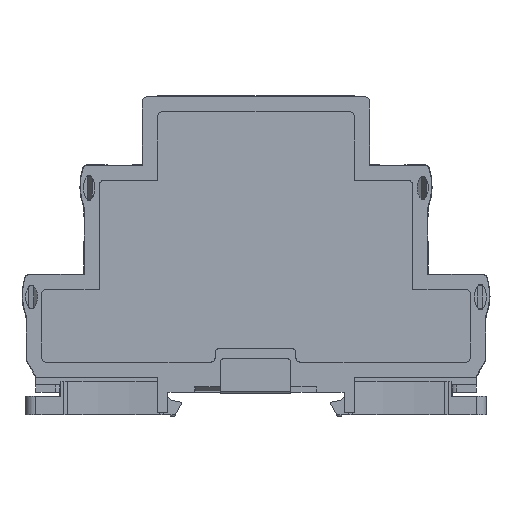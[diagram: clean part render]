
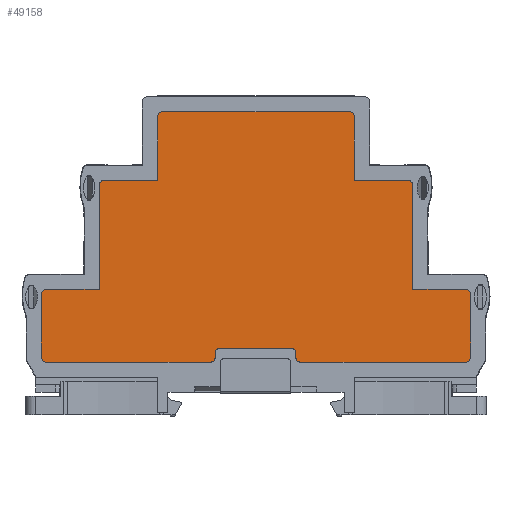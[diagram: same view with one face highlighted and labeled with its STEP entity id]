
A CAD part, left-side view. The second image highlights one B-rep face of the part: STEP entity #49158.
In plain terms, the highlighted planar face has unit normal (-1, 0, 0).
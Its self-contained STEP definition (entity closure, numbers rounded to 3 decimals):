
#437=CIRCLE('',#51834,1.);
#438=CIRCLE('',#51837,1.);
#440=CIRCLE('',#51840,1.);
#442=CIRCLE('',#51844,1.);
#443=CIRCLE('',#51845,1.);
#444=CIRCLE('',#51846,1.);
#445=CIRCLE('',#51847,1.);
#446=CIRCLE('',#51848,1.);
#447=CIRCLE('',#51849,1.);
#448=CIRCLE('',#51850,1.);
#449=CIRCLE('',#51851,1.);
#450=CIRCLE('',#51852,1.);
#1712=FACE_OUTER_BOUND('',#4305,.T.);
#4305=EDGE_LOOP('',(#31586,#31587,#31588,#31589,#31590,#31591,#31592,#31593,
#31594,#31595,#31596,#31597,#31598,#31599,#31600,#31601,#31602,#31603,#31604,
#31605,#31606,#31607,#31608,#31609,#31610,#31611,#31612,#31613));
#7128=LINE('',#69370,#13315);
#7134=LINE('',#69391,#13321);
#7137=LINE('',#69397,#13324);
#7138=LINE('',#69401,#13325);
#7139=LINE('',#69405,#13326);
#7140=LINE('',#69409,#13327);
#7141=LINE('',#69413,#13328);
#7142=LINE('',#69417,#13329);
#7143=LINE('',#69421,#13330);
#7144=LINE('',#69423,#13331);
#7145=LINE('',#69427,#13332);
#7146=LINE('',#69429,#13333);
#7147=LINE('',#69433,#13334);
#7148=LINE('',#69436,#13335);
#7149=LINE('',#69438,#13336);
#7150=LINE('',#69439,#13337);
#13315=VECTOR('',#55740,10.);
#13321=VECTOR('',#55760,10.);
#13324=VECTOR('',#55765,10.);
#13325=VECTOR('',#55768,10.);
#13326=VECTOR('',#55771,10.);
#13327=VECTOR('',#55774,10.);
#13328=VECTOR('',#55777,10.);
#13329=VECTOR('',#55780,10.);
#13330=VECTOR('',#55783,10.);
#13331=VECTOR('',#55784,10.);
#13332=VECTOR('',#55787,10.);
#13333=VECTOR('',#55788,10.);
#13334=VECTOR('',#55791,10.);
#13335=VECTOR('',#55794,10.);
#13336=VECTOR('',#55795,10.);
#13337=VECTOR('',#55796,10.);
#19525=VERTEX_POINT('',#69363);
#19526=VERTEX_POINT('',#69365);
#19527=VERTEX_POINT('',#69369);
#19529=VERTEX_POINT('',#69375);
#19531=VERTEX_POINT('',#69381);
#19532=VERTEX_POINT('',#69382);
#19535=VERTEX_POINT('',#69390);
#19537=VERTEX_POINT('',#69396);
#19538=VERTEX_POINT('',#69398);
#19539=VERTEX_POINT('',#69400);
#19540=VERTEX_POINT('',#69402);
#19541=VERTEX_POINT('',#69404);
#19542=VERTEX_POINT('',#69406);
#19543=VERTEX_POINT('',#69408);
#19544=VERTEX_POINT('',#69410);
#19545=VERTEX_POINT('',#69412);
#19546=VERTEX_POINT('',#69414);
#19547=VERTEX_POINT('',#69416);
#19548=VERTEX_POINT('',#69418);
#19549=VERTEX_POINT('',#69420);
#19550=VERTEX_POINT('',#69422);
#19551=VERTEX_POINT('',#69424);
#19552=VERTEX_POINT('',#69426);
#19553=VERTEX_POINT('',#69428);
#19554=VERTEX_POINT('',#69430);
#19555=VERTEX_POINT('',#69432);
#19556=VERTEX_POINT('',#69434);
#19557=VERTEX_POINT('',#69437);
#24222=EDGE_CURVE('',#19525,#19526,#437,.T.);
#24224=EDGE_CURVE('',#19527,#19526,#7128,.T.);
#24227=EDGE_CURVE('',#19527,#19529,#438,.T.);
#24230=EDGE_CURVE('',#19531,#19532,#440,.T.);
#24234=EDGE_CURVE('',#19535,#19532,#7134,.T.);
#24237=EDGE_CURVE('',#19525,#19537,#7137,.T.);
#24238=EDGE_CURVE('',#19538,#19537,#442,.T.);
#24239=EDGE_CURVE('',#19538,#19539,#7138,.T.);
#24240=EDGE_CURVE('',#19540,#19539,#443,.T.);
#24241=EDGE_CURVE('',#19540,#19541,#7139,.T.);
#24242=EDGE_CURVE('',#19542,#19541,#444,.T.);
#24243=EDGE_CURVE('',#19542,#19543,#7140,.T.);
#24244=EDGE_CURVE('',#19544,#19543,#445,.T.);
#24245=EDGE_CURVE('',#19544,#19545,#7141,.T.);
#24246=EDGE_CURVE('',#19546,#19545,#446,.T.);
#24247=EDGE_CURVE('',#19546,#19547,#7142,.T.);
#24248=EDGE_CURVE('',#19548,#19547,#447,.T.);
#24249=EDGE_CURVE('',#19548,#19549,#7143,.T.);
#24250=EDGE_CURVE('',#19549,#19550,#7144,.T.);
#24251=EDGE_CURVE('',#19551,#19550,#448,.T.);
#24252=EDGE_CURVE('',#19551,#19552,#7145,.T.);
#24253=EDGE_CURVE('',#19552,#19553,#7146,.T.);
#24254=EDGE_CURVE('',#19554,#19553,#449,.T.);
#24255=EDGE_CURVE('',#19554,#19555,#7147,.T.);
#24256=EDGE_CURVE('',#19556,#19555,#450,.T.);
#24257=EDGE_CURVE('',#19556,#19535,#7148,.T.);
#24258=EDGE_CURVE('',#19531,#19557,#7149,.T.);
#24259=EDGE_CURVE('',#19557,#19529,#7150,.T.);
#31586=ORIENTED_EDGE('',*,*,#24222,.F.);
#31587=ORIENTED_EDGE('',*,*,#24237,.T.);
#31588=ORIENTED_EDGE('',*,*,#24238,.F.);
#31589=ORIENTED_EDGE('',*,*,#24239,.T.);
#31590=ORIENTED_EDGE('',*,*,#24240,.F.);
#31591=ORIENTED_EDGE('',*,*,#24241,.T.);
#31592=ORIENTED_EDGE('',*,*,#24242,.F.);
#31593=ORIENTED_EDGE('',*,*,#24243,.T.);
#31594=ORIENTED_EDGE('',*,*,#24244,.F.);
#31595=ORIENTED_EDGE('',*,*,#24245,.T.);
#31596=ORIENTED_EDGE('',*,*,#24246,.F.);
#31597=ORIENTED_EDGE('',*,*,#24247,.T.);
#31598=ORIENTED_EDGE('',*,*,#24248,.F.);
#31599=ORIENTED_EDGE('',*,*,#24249,.T.);
#31600=ORIENTED_EDGE('',*,*,#24250,.T.);
#31601=ORIENTED_EDGE('',*,*,#24251,.F.);
#31602=ORIENTED_EDGE('',*,*,#24252,.T.);
#31603=ORIENTED_EDGE('',*,*,#24253,.T.);
#31604=ORIENTED_EDGE('',*,*,#24254,.F.);
#31605=ORIENTED_EDGE('',*,*,#24255,.T.);
#31606=ORIENTED_EDGE('',*,*,#24256,.F.);
#31607=ORIENTED_EDGE('',*,*,#24257,.T.);
#31608=ORIENTED_EDGE('',*,*,#24234,.T.);
#31609=ORIENTED_EDGE('',*,*,#24230,.F.);
#31610=ORIENTED_EDGE('',*,*,#24258,.T.);
#31611=ORIENTED_EDGE('',*,*,#24259,.T.);
#31612=ORIENTED_EDGE('',*,*,#24227,.F.);
#31613=ORIENTED_EDGE('',*,*,#24224,.T.);
#45781=PLANE('',#51843);
#49158=ADVANCED_FACE('',(#1712),#45781,.F.);
#51834=AXIS2_PLACEMENT_3D('',#69366,#55735,#55736);
#51837=AXIS2_PLACEMENT_3D('',#69376,#55745,#55746);
#51840=AXIS2_PLACEMENT_3D('',#69383,#55752,#55753);
#51843=AXIS2_PLACEMENT_3D('',#69395,#55763,#55764);
#51844=AXIS2_PLACEMENT_3D('',#69399,#55766,#55767);
#51845=AXIS2_PLACEMENT_3D('',#69403,#55769,#55770);
#51846=AXIS2_PLACEMENT_3D('',#69407,#55772,#55773);
#51847=AXIS2_PLACEMENT_3D('',#69411,#55775,#55776);
#51848=AXIS2_PLACEMENT_3D('',#69415,#55778,#55779);
#51849=AXIS2_PLACEMENT_3D('',#69419,#55781,#55782);
#51850=AXIS2_PLACEMENT_3D('',#69425,#55785,#55786);
#51851=AXIS2_PLACEMENT_3D('',#69431,#55789,#55790);
#51852=AXIS2_PLACEMENT_3D('',#69435,#55792,#55793);
#55735=DIRECTION('center_axis',(1.,0.,0.));
#55736=DIRECTION('ref_axis',(0.,0.707,-0.707));
#55740=DIRECTION('',(0.,0.,-1.));
#55745=DIRECTION('center_axis',(1.,0.,0.));
#55746=DIRECTION('ref_axis',(0.,0.707,0.707));
#55752=DIRECTION('center_axis',(1.,0.,0.));
#55753=DIRECTION('ref_axis',(0.,0.707,0.707));
#55760=DIRECTION('',(0.,1.,0.));
#55763=DIRECTION('center_axis',(1.,0.,0.));
#55764=DIRECTION('ref_axis',(0.,1.,0.));
#55765=DIRECTION('',(0.,-1.,0.));
#55766=DIRECTION('center_axis',(1.,0.,0.));
#55767=DIRECTION('ref_axis',(0.,-0.707,-0.707));
#55768=DIRECTION('',(0.,0.,1.));
#55769=DIRECTION('center_axis',(-1.,0.,0.));
#55770=DIRECTION('ref_axis',(0.,0.707,0.707));
#55771=DIRECTION('',(0.,-1.,0.));
#55772=DIRECTION('center_axis',(-1.,0.,0.));
#55773=DIRECTION('ref_axis',(0.,-0.707,0.707));
#55774=DIRECTION('',(0.,0.,-1.));
#55775=DIRECTION('center_axis',(1.,0.,0.));
#55776=DIRECTION('ref_axis',(0.,0.707,-0.707));
#55777=DIRECTION('',(0.,-1.,0.));
#55778=DIRECTION('center_axis',(1.,0.,0.));
#55779=DIRECTION('ref_axis',(0.,-0.707,-0.707));
#55780=DIRECTION('',(0.,0.,1.));
#55781=DIRECTION('center_axis',(1.,0.,0.));
#55782=DIRECTION('ref_axis',(0.,-0.707,0.707));
#55783=DIRECTION('',(0.,1.,0.));
#55784=DIRECTION('',(0.,0.,1.));
#55785=DIRECTION('center_axis',(1.,0.,0.));
#55786=DIRECTION('ref_axis',(0.,-0.707,0.707));
#55787=DIRECTION('',(0.,1.,0.));
#55788=DIRECTION('',(0.,0.,1.));
#55789=DIRECTION('center_axis',(1.,0.,0.));
#55790=DIRECTION('ref_axis',(0.,-0.707,0.707));
#55791=DIRECTION('',(0.,1.,0.));
#55792=DIRECTION('center_axis',(1.,0.,0.));
#55793=DIRECTION('ref_axis',(0.,0.707,0.707));
#55794=DIRECTION('',(0.,0.,-1.));
#55795=DIRECTION('',(0.,0.,-1.));
#55796=DIRECTION('',(0.,1.,0.));
#69363=CARTESIAN_POINT('',(-17.95,41.649,6.));
#69365=CARTESIAN_POINT('',(-17.95,42.649,7.));
#69366=CARTESIAN_POINT('Origin',(-17.95,41.649,7.));
#69369=CARTESIAN_POINT('',(-17.95,42.649,19.449));
#69370=CARTESIAN_POINT('',(-17.95,42.649,-37.134));
#69375=CARTESIAN_POINT('',(-17.95,41.649,20.449));
#69376=CARTESIAN_POINT('Origin',(-17.95,41.649,19.449));
#69381=CARTESIAN_POINT('',(-17.95,31.149,41.149));
#69382=CARTESIAN_POINT('',(-17.95,30.149,42.149));
#69383=CARTESIAN_POINT('Origin',(-17.95,30.149,41.149));
#69390=CARTESIAN_POINT('',(-17.95,19.549,42.149));
#69391=CARTESIAN_POINT('',(-17.95,-20.034,42.149));
#69395=CARTESIAN_POINT('Origin',(-17.95,-8.919,-94.717));
#69396=CARTESIAN_POINT('',(-17.95,9.1,6.));
#69397=CARTESIAN_POINT('',(-17.95,16.865,6.));
#69398=CARTESIAN_POINT('',(-17.95,8.1,7.));
#69399=CARTESIAN_POINT('Origin',(-17.95,9.1,7.));
#69400=CARTESIAN_POINT('',(-17.95,8.1,7.8));
#69401=CARTESIAN_POINT('',(-17.95,8.1,-44.858));
#69402=CARTESIAN_POINT('',(-17.95,7.1,8.8));
#69403=CARTESIAN_POINT('Origin',(-17.95,7.1,7.8));
#69404=CARTESIAN_POINT('',(-17.95,-6.9,8.8));
#69405=CARTESIAN_POINT('',(-17.95,-0.409,8.8));
#69406=CARTESIAN_POINT('',(-17.95,-7.9,7.8));
#69407=CARTESIAN_POINT('Origin',(-17.95,-6.9,7.8));
#69408=CARTESIAN_POINT('',(-17.95,-7.9,7.));
#69409=CARTESIAN_POINT('',(-17.95,-7.9,-42.958));
#69410=CARTESIAN_POINT('',(-17.95,-8.9,6.));
#69411=CARTESIAN_POINT('Origin',(-17.95,-8.9,7.));
#69412=CARTESIAN_POINT('',(-17.95,-41.649,6.));
#69413=CARTESIAN_POINT('',(-17.95,16.865,6.));
#69414=CARTESIAN_POINT('',(-17.95,-42.649,7.));
#69415=CARTESIAN_POINT('Origin',(-17.95,-41.649,7.));
#69416=CARTESIAN_POINT('',(-17.95,-42.649,19.449));
#69417=CARTESIAN_POINT('',(-17.95,-42.649,-44.358));
#69418=CARTESIAN_POINT('',(-17.95,-41.649,20.449));
#69419=CARTESIAN_POINT('Origin',(-17.95,-41.649,19.449));
#69420=CARTESIAN_POINT('',(-17.95,-31.149,20.449));
#69421=CARTESIAN_POINT('',(-17.95,-25.784,20.449));
#69422=CARTESIAN_POINT('',(-17.95,-31.149,41.149));
#69423=CARTESIAN_POINT('',(-17.95,-31.149,-37.134));
#69424=CARTESIAN_POINT('',(-17.95,-30.149,42.149));
#69425=CARTESIAN_POINT('Origin',(-17.95,-30.149,41.149));
#69426=CARTESIAN_POINT('',(-17.95,-19.549,42.149));
#69427=CARTESIAN_POINT('',(-17.95,-20.034,42.149));
#69428=CARTESIAN_POINT('',(-17.95,-19.549,54.75));
#69429=CARTESIAN_POINT('',(-17.95,-19.549,-26.284));
#69430=CARTESIAN_POINT('',(-17.95,-18.549,55.75));
#69431=CARTESIAN_POINT('Origin',(-17.95,-18.549,54.75));
#69432=CARTESIAN_POINT('',(-17.95,18.549,55.75));
#69433=CARTESIAN_POINT('',(-17.95,-14.234,55.75));
#69434=CARTESIAN_POINT('',(-17.95,19.549,54.75));
#69435=CARTESIAN_POINT('Origin',(-17.95,18.549,54.75));
#69436=CARTESIAN_POINT('',(-17.95,19.549,-22.358));
#69437=CARTESIAN_POINT('',(-17.95,31.149,20.449));
#69438=CARTESIAN_POINT('',(-17.95,31.149,-26.284));
#69439=CARTESIAN_POINT('',(-17.95,-25.784,20.449));
